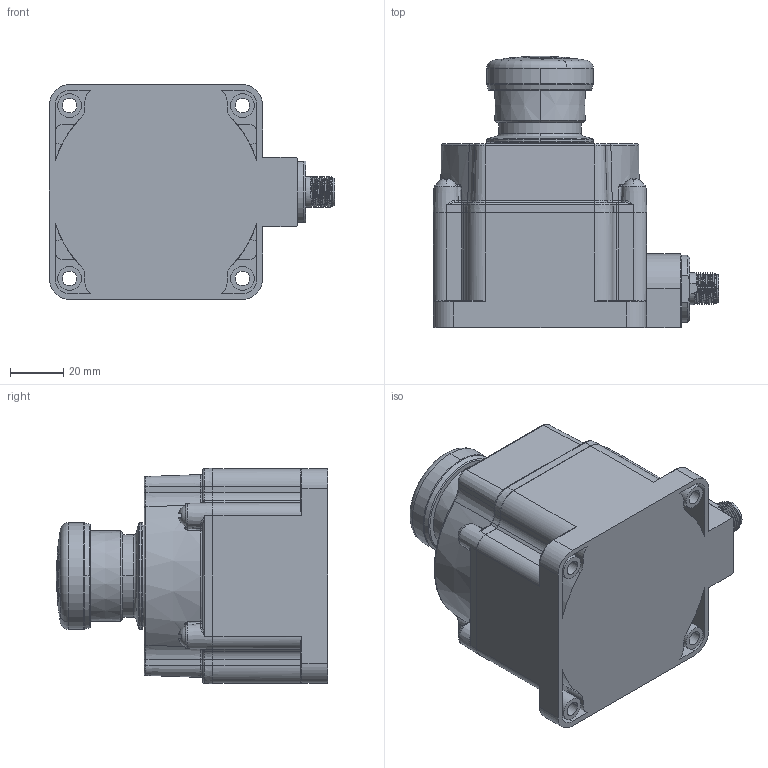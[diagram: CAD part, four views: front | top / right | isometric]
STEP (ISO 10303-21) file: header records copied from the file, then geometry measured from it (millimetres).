
FILE_DESCRIPTION((''),'2;1');
FILE_NAME('154128_SW','2012-06-13T',('banengservice'),('BANNER ENGINEERING'),'PRO/ENGINEER BY PARAMETRIC TECHNOLOGY CORPORATION, 2009141','PRO/ENGINEER BY PARAMETRIC TECHNOLOGY CORPORATION, 2009141','');
FILE_SCHEMA(('CONFIG_CONTROL_DESIGN'));
Length unit declared in the file: inch
Products named in the file (1): 154128_SW
Bounding box: 107.49 x 102.08 x 81.12 mm (x, y, z)
Volume: 420598.5 mm3; surface area: 46781.1 mm2
Topology: 1 solids, 1 shells, 534 faces, 1375 edges, 863 vertices
Faces by surface type: plane 210, cylinder 141, torus 68, bspline 48, cone 44, sphere 23
Entity records: 22337 total; most frequent: CARTESIAN_POINT 9332, DIRECTION 2772, ORIENTED_EDGE 2746, EDGE_CURVE 1373, AXIS2_PLACEMENT_3D 1096, VERTEX_POINT 863, CIRCLE 610, VECTOR 580
